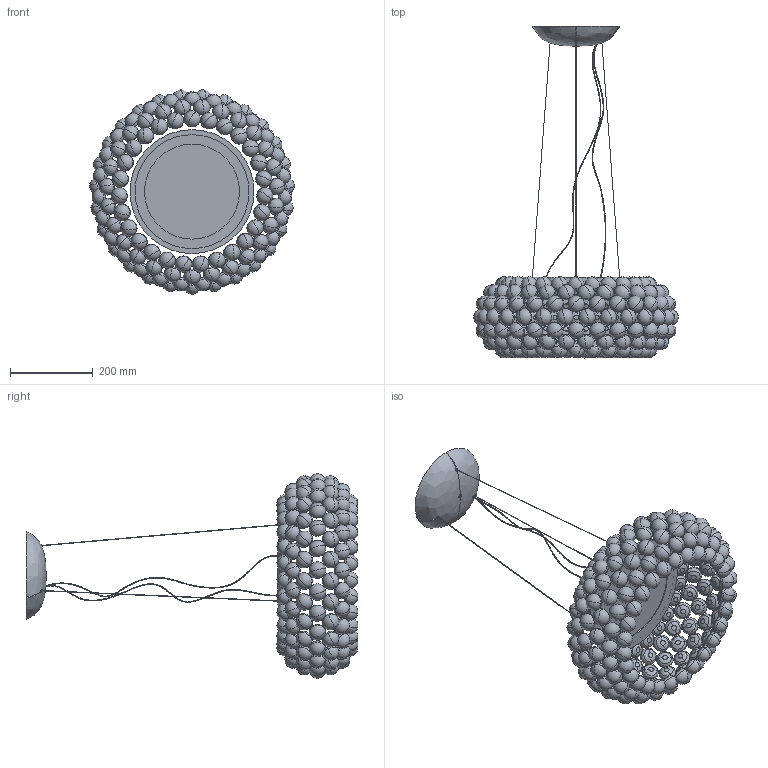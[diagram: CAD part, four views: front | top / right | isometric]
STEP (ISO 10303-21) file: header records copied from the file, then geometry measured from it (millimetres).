
FILE_DESCRIPTION (( 'STEP AP214' ), '1' );
FILE_NAME ('311_MEDIA_S_XX_3D.STEP', '2021-05-21T08:57:14', ( '' ), ( '' ), 'SwSTEP 2.0', 'SolidWorks 2021', '' );
FILE_SCHEMA (( 'AUTOMOTIVE_DESIGN' ));
Length unit declared in the file: millimetre
Products named in the file (1): 311_MEDIA_S_XX_3D
Bounding box: 495.66 x 803.51 x 494.84 mm (x, y, z)
Volume: 7785737.3 mm3; surface area: 1094543.8 mm2
Topology: 191 solids, 191 shells, 1781 faces, 3972 edges, 2204 vertices
Faces by surface type: sphere 756, cylinder 413, torus 386, plane 216, bspline 6, cone 4
Entity records: 67051 total; most frequent: DIRECTION 9448, CARTESIAN_POINT 8753, ORIENTED_EDGE 6432, AXIS2_PLACEMENT_3D 4511, EDGE_CURVE 3216, CIRCLE 2735, UNCERTAINTY_MEASURE_WITH_UNIT 1974, PRESENTATION_LAYER_ASSIGNMENT 1973
